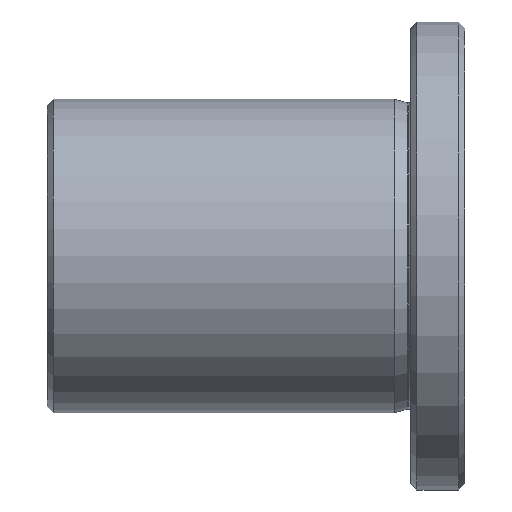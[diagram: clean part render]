
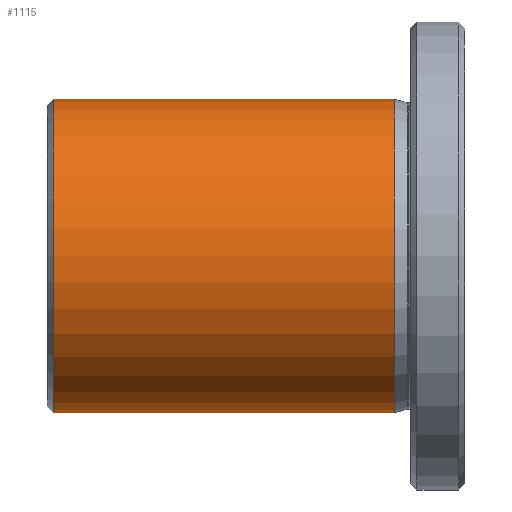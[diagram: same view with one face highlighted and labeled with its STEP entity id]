
A CAD part, top view. The second image highlights one B-rep face of the part: STEP entity #1115.
In plain terms, the highlighted cylindrical face has radius 37.5 mm (diameter 75 mm), a partial arc.
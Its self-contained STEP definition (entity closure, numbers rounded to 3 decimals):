
#4 = CARTESIAN_POINT ( 'NONE',  ( 1.5, -37.5, 0. ) ) ;
#81 = EDGE_CURVE ( 'NONE', #947, #1490, #447, .T. ) ;
#134 = VERTEX_POINT ( 'NONE', #4 ) ;
#147 = CARTESIAN_POINT ( 'NONE',  ( 1.5, 0., 0. ) ) ;
#241 = LINE ( 'NONE', #698, #1483 ) ;
#261 = EDGE_CURVE ( 'NONE', #134, #989, #241, .T. ) ;
#316 = CARTESIAN_POINT ( 'NONE',  ( 1.5, 37.5, 0. ) ) ;
#360 = ORIENTED_EDGE ( 'NONE', *, *, #822, .T. ) ;
#367 = CARTESIAN_POINT ( 'NONE',  ( 83.1, 0., 0. ) ) ;
#372 = AXIS2_PLACEMENT_3D ( 'NONE', #450, #1410, #824 ) ;
#383 = DIRECTION ( 'NONE',  ( 0., 1., 0. ) ) ;
#394 = VECTOR ( 'NONE', #1143, 1000. ) ;
#447 = LINE ( 'NONE', #919, #394 ) ;
#450 = CARTESIAN_POINT ( 'NONE',  ( 42.3, 0., 0. ) ) ;
#475 = DIRECTION ( 'NONE',  ( 1., 0., 0. ) ) ;
#641 = EDGE_LOOP ( 'NONE', ( #1012, #834, #360, #879 ) ) ;
#663 = CARTESIAN_POINT ( 'NONE',  ( 83.1, -37.5, 0. ) ) ;
#682 = CYLINDRICAL_SURFACE ( 'NONE', #372, 37.5 ) ;
#698 = CARTESIAN_POINT ( 'NONE',  ( 42.3, -37.5, 0. ) ) ;
#814 = CIRCLE ( 'NONE', #913, 37.5 ) ;
#822 = EDGE_CURVE ( 'NONE', #989, #1490, #814, .T. ) ;
#824 = DIRECTION ( 'NONE',  ( 0., 1., 0. ) ) ;
#834 = ORIENTED_EDGE ( 'NONE', *, *, #261, .T. ) ;
#879 = ORIENTED_EDGE ( 'NONE', *, *, #81, .F. ) ;
#913 = AXIS2_PLACEMENT_3D ( 'NONE', #367, #1465, #383 ) ;
#919 = CARTESIAN_POINT ( 'NONE',  ( 42.3, 37.5, 0. ) ) ;
#947 = VERTEX_POINT ( 'NONE', #316 ) ;
#970 = DIRECTION ( 'NONE',  ( 0., 1., 0. ) ) ;
#989 = VERTEX_POINT ( 'NONE', #663 ) ;
#992 = CIRCLE ( 'NONE', #1073, 37.5 ) ;
#1012 = ORIENTED_EDGE ( 'NONE', *, *, #1196, .F. ) ;
#1073 = AXIS2_PLACEMENT_3D ( 'NONE', #147, #1229, #970 ) ;
#1115 = ADVANCED_FACE ( 'NONE', ( #1528 ), #682, .T. ) ;
#1143 = DIRECTION ( 'NONE',  ( 1., 0., 0. ) ) ;
#1196 = EDGE_CURVE ( 'NONE', #134, #947, #992, .T. ) ;
#1229 = DIRECTION ( 'NONE',  ( -1., 0., 0. ) ) ;
#1410 = DIRECTION ( 'NONE',  ( 1., 0., 0. ) ) ;
#1465 = DIRECTION ( 'NONE',  ( -1., 0., 0. ) ) ;
#1483 = VECTOR ( 'NONE', #475, 1000. ) ;
#1486 = CARTESIAN_POINT ( 'NONE',  ( 83.1, 37.5, 0. ) ) ;
#1490 = VERTEX_POINT ( 'NONE', #1486 ) ;
#1528 = FACE_OUTER_BOUND ( 'NONE', #641, .T. ) ;
